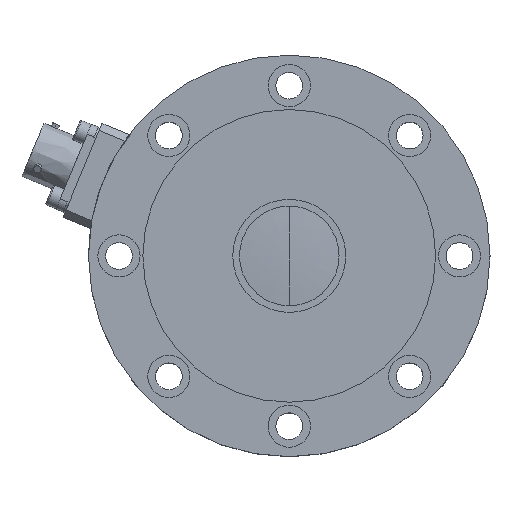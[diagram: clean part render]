
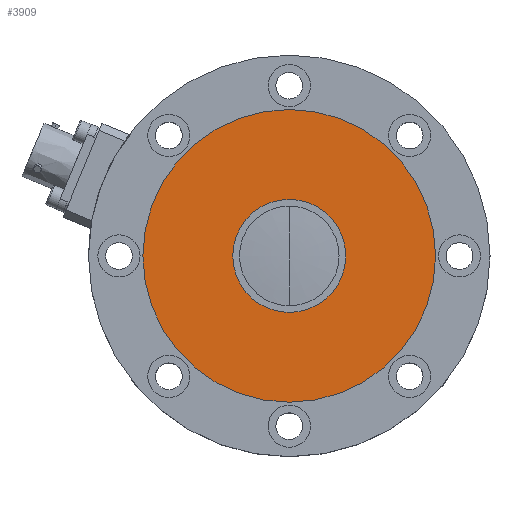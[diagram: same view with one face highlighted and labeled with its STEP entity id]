
A CAD part, top view. The second image highlights one B-rep face of the part: STEP entity #3909.
In plain terms, the highlighted free-form (B-spline) face has degree [1, 1] with [2, 2] control points.
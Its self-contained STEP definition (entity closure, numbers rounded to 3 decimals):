
#515=CARTESIAN_POINT('',(0.,0.,31.5));
#516=DIRECTION('',(0.,0.,1.));
#517=DIRECTION('',(-1.,0.,0.));
#518=AXIS2_PLACEMENT_3D('',#515,#516,#517);
#520=CARTESIAN_POINT('',(0.,0.,31.5));
#521=DIRECTION('',(0.,0.,1.));
#522=DIRECTION('',(1.,0.,0.));
#523=AXIS2_PLACEMENT_3D('',#520,#521,#522);
#533=CARTESIAN_POINT('',(0.,0.,31.5));
#534=DIRECTION('',(0.,0.,1.));
#535=DIRECTION('',(-1.,0.,0.));
#536=AXIS2_PLACEMENT_3D('',#533,#534,#535);
#538=CARTESIAN_POINT('',(0.,0.,31.5));
#539=DIRECTION('',(0.,0.,1.));
#540=DIRECTION('',(1.,0.,0.));
#541=AXIS2_PLACEMENT_3D('',#538,#539,#540);
#3070=CARTESIAN_POINT('',(-14.75,0.,31.5));
#3071=CARTESIAN_POINT('',(14.75,0.,31.5));
#3072=VERTEX_POINT('',#3070);
#3073=VERTEX_POINT('',#3071);
#3074=CARTESIAN_POINT('',(-38.2,0.,31.5));
#3075=CARTESIAN_POINT('',(38.2,0.,31.5));
#3076=VERTEX_POINT('',#3074);
#3077=VERTEX_POINT('',#3075);
#3893=CARTESIAN_POINT('',(-39.728,39.731,31.5));
#3894=CARTESIAN_POINT('',(39.728,39.731,31.5));
#3895=CARTESIAN_POINT('',(-39.728,-39.731,31.5));
#3896=CARTESIAN_POINT('',(39.728,-39.731,31.5));
#3897=B_SPLINE_SURFACE_WITH_KNOTS('',1,1,((#3893,#3894),(#3895,#3896)),
.UNSPECIFIED.,.F.,.F.,.F.,(2,2),(2,2),(-39.731,39.731),(
-39.728,39.728),.UNSPECIFIED.);
#3898=ORIENTED_EDGE('',*,*,#3883,.F.);
#3900=ORIENTED_EDGE('',*,*,#3899,.F.);
#3901=EDGE_LOOP('',(#3898,#3900));
#3902=FACE_OUTER_BOUND('',#3901,.F.);
#3904=ORIENTED_EDGE('',*,*,#3903,.T.);
#3906=ORIENTED_EDGE('',*,*,#3905,.T.);
#3907=EDGE_LOOP('',(#3904,#3906));
#3908=FACE_BOUND('',#3907,.F.);
#519=CIRCLE('',#518,38.2);
#524=CIRCLE('',#523,38.2);
#537=CIRCLE('',#536,14.75);
#542=CIRCLE('',#541,14.75);
#3883=EDGE_CURVE('',#3076,#3077,#519,.T.);
#3899=EDGE_CURVE('',#3077,#3076,#524,.T.);
#3903=EDGE_CURVE('',#3072,#3073,#537,.T.);
#3905=EDGE_CURVE('',#3073,#3072,#542,.T.);
#3909=ADVANCED_FACE('',(#3902,#3908),#3897,.T.);
